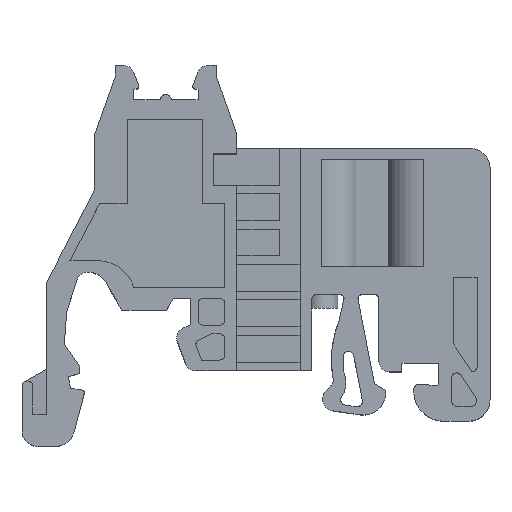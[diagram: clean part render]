
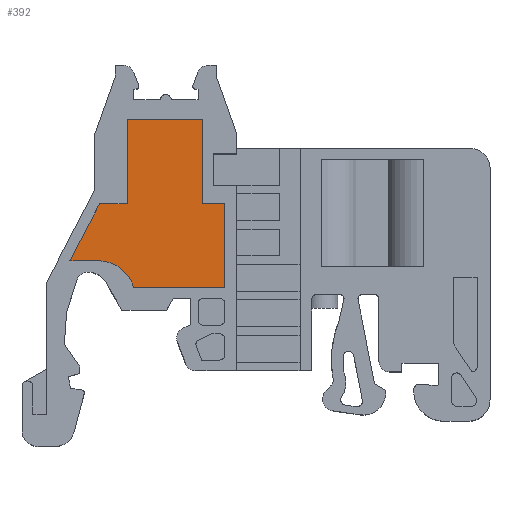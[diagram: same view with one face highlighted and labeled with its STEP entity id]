
A CAD part, top view. The second image highlights one B-rep face of the part: STEP entity #392.
In plain terms, the highlighted planar face has unit normal (0, 0, 1).
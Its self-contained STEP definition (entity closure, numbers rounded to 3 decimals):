
#131=PLANE('',#6004);
#392=ADVANCED_FACE('',(#761),#131,.T.);
#761=FACE_OUTER_BOUND('',#1066,.T.);
#1066=EDGE_LOOP('',(#3030,#3031,#3032,#3033,#3034,#3035,#3036,#3037,#3038,
#3039));
#1545=LINE('',#8536,#2206);
#1548=LINE('',#8544,#2209);
#1550=LINE('',#8548,#2211);
#1552=LINE('',#8552,#2213);
#1554=LINE('',#8556,#2215);
#1556=LINE('',#8560,#2217);
#1558=LINE('',#8564,#2219);
#1560=LINE('',#8568,#2221);
#1562=LINE('',#8572,#2223);
#2206=VECTOR('',#6773,1.);
#2209=VECTOR('',#6782,1.);
#2211=VECTOR('',#6786,1.);
#2213=VECTOR('',#6790,1.);
#2215=VECTOR('',#6794,1.);
#2217=VECTOR('',#6798,1.);
#2219=VECTOR('',#6802,1.);
#2221=VECTOR('',#6806,1.);
#2223=VECTOR('',#6810,1.);
#3030=ORIENTED_EDGE('',*,*,#5199,.T.);
#3031=ORIENTED_EDGE('',*,*,#5197,.T.);
#3032=ORIENTED_EDGE('',*,*,#5195,.T.);
#3033=ORIENTED_EDGE('',*,*,#5193,.T.);
#3034=ORIENTED_EDGE('',*,*,#5191,.T.);
#3035=ORIENTED_EDGE('',*,*,#5189,.T.);
#3036=ORIENTED_EDGE('',*,*,#5187,.T.);
#3037=ORIENTED_EDGE('',*,*,#5185,.T.);
#3038=ORIENTED_EDGE('',*,*,#5183,.T.);
#3039=ORIENTED_EDGE('',*,*,#5181,.T.);
#4616=VERTEX_POINT('',#8535);
#4617=VERTEX_POINT('',#8537);
#4618=VERTEX_POINT('',#8541);
#4619=VERTEX_POINT('',#8545);
#4620=VERTEX_POINT('',#8549);
#4621=VERTEX_POINT('',#8553);
#4622=VERTEX_POINT('',#8557);
#4623=VERTEX_POINT('',#8561);
#4624=VERTEX_POINT('',#8565);
#4625=VERTEX_POINT('',#8569);
#5181=EDGE_CURVE('',#4617,#4616,#1545,.T.);
#5183=EDGE_CURVE('',#4618,#4617,#5811,.T.);
#5185=EDGE_CURVE('',#4619,#4618,#1548,.T.);
#5187=EDGE_CURVE('',#4620,#4619,#1550,.T.);
#5189=EDGE_CURVE('',#4621,#4620,#1552,.T.);
#5191=EDGE_CURVE('',#4622,#4621,#1554,.T.);
#5193=EDGE_CURVE('',#4623,#4622,#1556,.T.);
#5195=EDGE_CURVE('',#4624,#4623,#1558,.T.);
#5197=EDGE_CURVE('',#4625,#4624,#1560,.T.);
#5199=EDGE_CURVE('',#4616,#4625,#1562,.T.);
#5811=CIRCLE('',#5994,3.4);
#5994=AXIS2_PLACEMENT_3D('',#8540,#6777,#6778);
#6004=AXIS2_PLACEMENT_3D('',#8574,#6813,#6814);
#6773=DIRECTION('',(1.,0.,0.));
#6777=DIRECTION('',(0.,0.,-1.));
#6778=DIRECTION('',(0.,1.,0.));
#6782=DIRECTION('',(1.,0.,0.));
#6786=DIRECTION('',(-0.462,-0.887,0.));
#6790=DIRECTION('',(-1.,0.,0.));
#6794=DIRECTION('',(0.,-1.,0.));
#6798=DIRECTION('',(-1.,0.,0.));
#6802=DIRECTION('',(0.,1.,0.));
#6806=DIRECTION('',(-1.,0.,0.));
#6810=DIRECTION('',(0.,1.,0.));
#6813=DIRECTION('',(0.,0.,1.));
#6814=DIRECTION('',(-1.,0.,0.));
#8535=CARTESIAN_POINT('',(1728.256,933.817,5.3));
#8536=CARTESIAN_POINT('',(1719.756,933.817,5.3));
#8537=CARTESIAN_POINT('',(1719.756,933.817,5.3));
#8540=CARTESIAN_POINT('',(1716.477,932.917,5.3));
#8541=CARTESIAN_POINT('',(1716.477,936.317,5.3));
#8544=CARTESIAN_POINT('',(1713.823,936.317,5.3));
#8545=CARTESIAN_POINT('',(1713.823,936.317,5.3));
#8548=CARTESIAN_POINT('',(1716.581,941.617,5.3));
#8549=CARTESIAN_POINT('',(1716.581,941.617,5.3));
#8552=CARTESIAN_POINT('',(1719.156,941.617,5.3));
#8553=CARTESIAN_POINT('',(1719.156,941.617,5.3));
#8556=CARTESIAN_POINT('',(1719.156,949.517,5.3));
#8557=CARTESIAN_POINT('',(1719.156,949.517,5.3));
#8560=CARTESIAN_POINT('',(1726.206,949.517,5.3));
#8561=CARTESIAN_POINT('',(1726.206,949.517,5.3));
#8564=CARTESIAN_POINT('',(1726.206,941.617,5.3));
#8565=CARTESIAN_POINT('',(1726.206,941.617,5.3));
#8568=CARTESIAN_POINT('',(1728.256,941.617,5.3));
#8569=CARTESIAN_POINT('',(1728.256,941.617,5.3));
#8572=CARTESIAN_POINT('',(1728.256,933.817,5.3));
#8574=CARTESIAN_POINT('',(1752.956,934.167,5.3));
